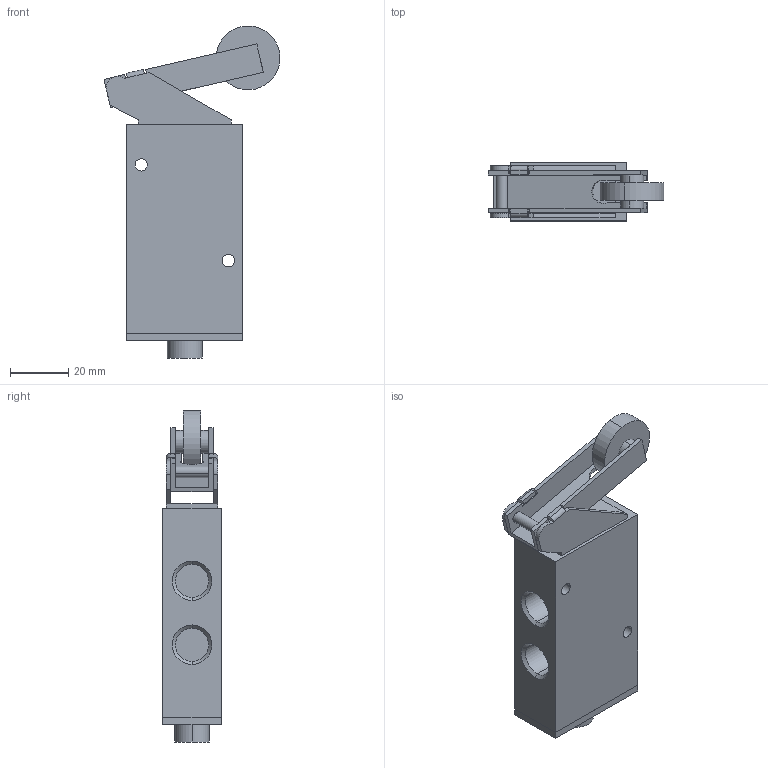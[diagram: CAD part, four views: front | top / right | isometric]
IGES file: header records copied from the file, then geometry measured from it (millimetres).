
Global section: file name: No Iges File Name specified; native system: AutoDesk Inventor R11.0; preprocessor: AutoDesk Inventor Iges Exporter R11.0; author: No Author specified; organization: No Organization specified; date: 20061219.113348; units: millimetre
Bounding box: 60.6 x 20 x 114.33 mm (x, y, z)
Volume: 61177.2 mm3; surface area: 20968.7 mm2
Topology: 3 solids, 3 shells, 121 faces, 284 edges, 180 vertices
Faces by surface type: plane 65, bspline 37, cylinder 14, revolution 5
